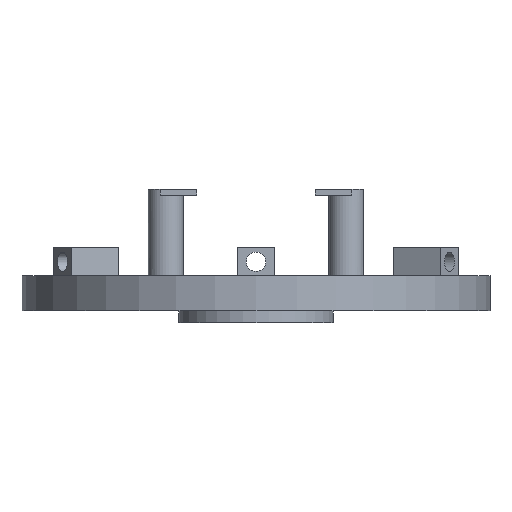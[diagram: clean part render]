
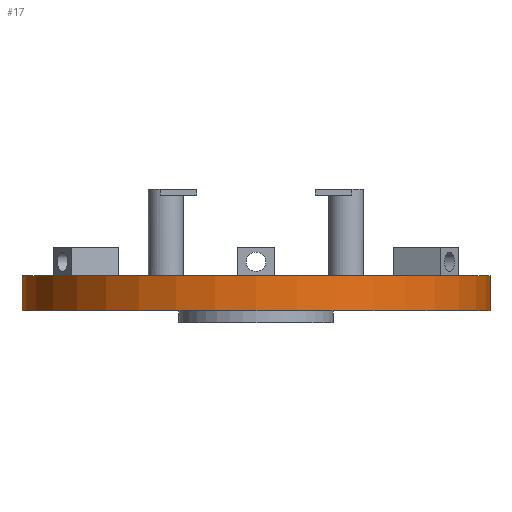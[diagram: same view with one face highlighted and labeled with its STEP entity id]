
A CAD part, front view. The second image highlights one B-rep face of the part: STEP entity #17.
In plain terms, the highlighted cylindrical face has radius 20 mm (diameter 40 mm), a full revolution.
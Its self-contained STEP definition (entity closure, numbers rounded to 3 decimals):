
#17 = ADVANCED_FACE('',(#18),#31,.T.);
#18 = FACE_BOUND('',#19,.T.);
#19 = EDGE_LOOP('',(#20,#54,#77,#104));
#20 = ORIENTED_EDGE('',*,*,#21,.F.);
#21 = EDGE_CURVE('',#22,#22,#24,.T.);
#22 = VERTEX_POINT('',#23);
#23 = CARTESIAN_POINT('',(20.,0.,10.));
#24 = SURFACE_CURVE('',#25,(#30,#42),.PCURVE_S1.);
#25 = CIRCLE('',#26,20.);
#26 = AXIS2_PLACEMENT_3D('',#27,#28,#29);
#27 = CARTESIAN_POINT('',(0.,0.,10.));
#28 = DIRECTION('',(0.,0.,1.));
#29 = DIRECTION('',(1.,0.,-0.));
#30 = PCURVE('',#31,#36);
#31 = CYLINDRICAL_SURFACE('',#32,20.);
#32 = AXIS2_PLACEMENT_3D('',#33,#34,#35);
#33 = CARTESIAN_POINT('',(0.,0.,7.));
#34 = DIRECTION('',(0.,0.,1.));
#35 = DIRECTION('',(1.,0.,-0.));
#36 = DEFINITIONAL_REPRESENTATION('',(#37),#41);
#37 = LINE('',#38,#39);
#38 = CARTESIAN_POINT('',(0.,3.));
#39 = VECTOR('',#40,1.);
#40 = DIRECTION('',(1.,0.));
#41 = ( GEOMETRIC_REPRESENTATION_CONTEXT(2) 
PARAMETRIC_REPRESENTATION_CONTEXT() REPRESENTATION_CONTEXT('2D SPACE',''
  ) );
#42 = PCURVE('',#43,#48);
#43 = PLANE('',#44);
#44 = AXIS2_PLACEMENT_3D('',#45,#46,#47);
#45 = CARTESIAN_POINT('',(0.,0.,10.));
#46 = DIRECTION('',(0.,0.,1.));
#47 = DIRECTION('',(1.,0.,-0.));
#48 = DEFINITIONAL_REPRESENTATION('',(#49),#53);
#49 = CIRCLE('',#50,20.);
#50 = AXIS2_PLACEMENT_2D('',#51,#52);
#51 = CARTESIAN_POINT('',(0.,0.));
#52 = DIRECTION('',(1.,0.));
#53 = ( GEOMETRIC_REPRESENTATION_CONTEXT(2) 
PARAMETRIC_REPRESENTATION_CONTEXT() REPRESENTATION_CONTEXT('2D SPACE',''
  ) );
#54 = ORIENTED_EDGE('',*,*,#55,.F.);
#55 = EDGE_CURVE('',#56,#22,#58,.T.);
#56 = VERTEX_POINT('',#57);
#57 = CARTESIAN_POINT('',(20.,0.,7.));
#58 = SEAM_CURVE('',#59,(#63,#70),.PCURVE_S1.);
#59 = LINE('',#60,#61);
#60 = CARTESIAN_POINT('',(20.,0.,7.));
#61 = VECTOR('',#62,1.);
#62 = DIRECTION('',(0.,0.,1.));
#63 = PCURVE('',#31,#64);
#64 = DEFINITIONAL_REPRESENTATION('',(#65),#69);
#65 = LINE('',#66,#67);
#66 = CARTESIAN_POINT('',(6.283,-0.));
#67 = VECTOR('',#68,1.);
#68 = DIRECTION('',(0.,1.));
#69 = ( GEOMETRIC_REPRESENTATION_CONTEXT(2) 
PARAMETRIC_REPRESENTATION_CONTEXT() REPRESENTATION_CONTEXT('2D SPACE',''
  ) );
#70 = PCURVE('',#31,#71);
#71 = DEFINITIONAL_REPRESENTATION('',(#72),#76);
#72 = LINE('',#73,#74);
#73 = CARTESIAN_POINT('',(0.,-0.));
#74 = VECTOR('',#75,1.);
#75 = DIRECTION('',(0.,1.));
#76 = ( GEOMETRIC_REPRESENTATION_CONTEXT(2) 
PARAMETRIC_REPRESENTATION_CONTEXT() REPRESENTATION_CONTEXT('2D SPACE',''
  ) );
#77 = ORIENTED_EDGE('',*,*,#78,.T.);
#78 = EDGE_CURVE('',#56,#56,#79,.T.);
#79 = SURFACE_CURVE('',#80,(#85,#92),.PCURVE_S1.);
#80 = CIRCLE('',#81,20.);
#81 = AXIS2_PLACEMENT_3D('',#82,#83,#84);
#82 = CARTESIAN_POINT('',(0.,0.,7.));
#83 = DIRECTION('',(0.,0.,1.));
#84 = DIRECTION('',(1.,0.,-0.));
#85 = PCURVE('',#31,#86);
#86 = DEFINITIONAL_REPRESENTATION('',(#87),#91);
#87 = LINE('',#88,#89);
#88 = CARTESIAN_POINT('',(0.,0.));
#89 = VECTOR('',#90,1.);
#90 = DIRECTION('',(1.,0.));
#91 = ( GEOMETRIC_REPRESENTATION_CONTEXT(2) 
PARAMETRIC_REPRESENTATION_CONTEXT() REPRESENTATION_CONTEXT('2D SPACE',''
  ) );
#92 = PCURVE('',#93,#98);
#93 = PLANE('',#94);
#94 = AXIS2_PLACEMENT_3D('',#95,#96,#97);
#95 = CARTESIAN_POINT('',(0.,0.,7.));
#96 = DIRECTION('',(0.,0.,1.));
#97 = DIRECTION('',(1.,0.,-0.));
#98 = DEFINITIONAL_REPRESENTATION('',(#99),#103);
#99 = CIRCLE('',#100,20.);
#100 = AXIS2_PLACEMENT_2D('',#101,#102);
#101 = CARTESIAN_POINT('',(0.,0.));
#102 = DIRECTION('',(1.,0.));
#103 = ( GEOMETRIC_REPRESENTATION_CONTEXT(2) 
PARAMETRIC_REPRESENTATION_CONTEXT() REPRESENTATION_CONTEXT('2D SPACE',''
  ) );
#104 = ORIENTED_EDGE('',*,*,#55,.T.);
